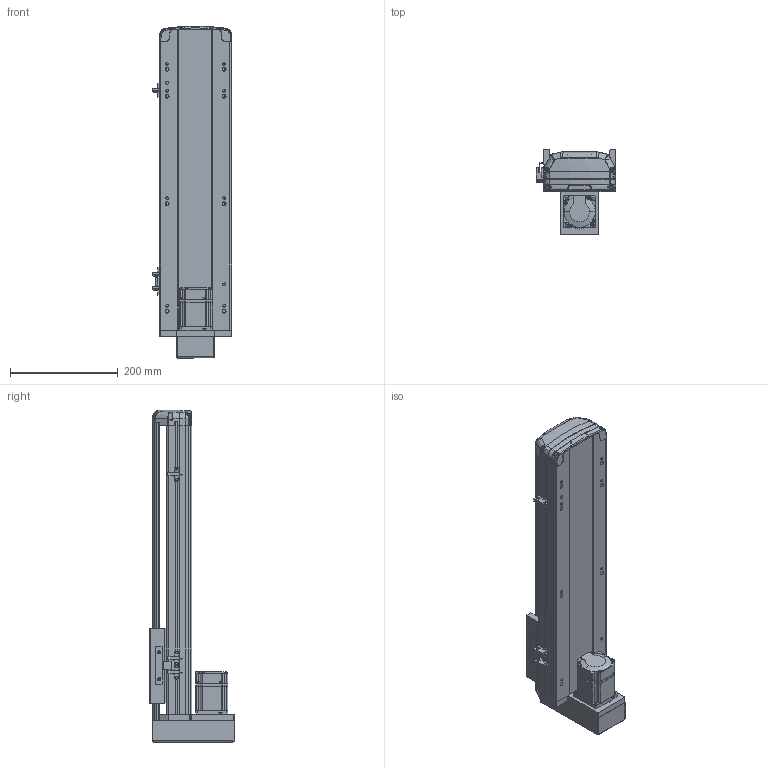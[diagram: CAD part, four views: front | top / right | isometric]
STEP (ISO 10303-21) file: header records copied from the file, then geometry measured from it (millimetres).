
FILE_DESCRIPTION (( 'STEP AP214' ), '1' );
FILE_NAME ('RTH14-XX-350-M-M20-C4.STEP', '2025-10-25T02:47:56', ( 'Microsoft' ), ( 'Microsoft' ), 'SwSTEP 2.0', 'SolidWorks 2018', '' );
FILE_SCHEMA (( 'AUTOMOTIVE_DESIGN' ));
Length unit declared in the file: millimetre
Products named in the file (10): N_RTH14-GY-001P^RTH14-XX-XX-M-M20-C4; N_RTH13-M-008萇儂啣狟殏^RTH14-XX-XX-M-M20-C4; N_MSMD022P1AA_200W^RTH14-XX-XX-M-M20-C4; N_RTH13-L-012感应片（外置）^RTH14-XX-XX-M-M20-C4; N_RTH14-R-004-SFSR16賑釱^RTH14-XX-XX-M-M20-C4; N_RTH13-M-018裔赽^RTH14-XX-XX-M-M20-C4; N_OMRON EE-SX672 传感器^RTH14-XX-XX-M-M20-C4; N_RTH14-M-011P菁釱^RTH14-XX-XX-M-M20-C4; RTH14-XX-350-M-M20-C4; N_RTH14-M-007P奻裔^RTH14-XX-XX-M-M20-C4
Assembly tree (11 placements, depth 2):
  RTH14-XX-350-M-M20-C4
    N_RTH14-M-011P菁釱^RTH14-XX-XX-M-M20-C4
    N_RTH14-M-007P奻裔^RTH14-XX-XX-M-M20-C4
    N_MSMD022P1AA_200W^RTH14-XX-XX-M-M20-C4
    N_RTH13-M-008萇儂啣狟殏^RTH14-XX-XX-M-M20-C4
    N_RTH13-M-018裔赽^RTH14-XX-XX-M-M20-C4
    N_RTH13-L-012感应片（外置）^RTH14-XX-XX-M-M20-C4
    N_OMRON EE-SX672 传感器^RTH14-XX-XX-M-M20-C4  x3
    N_RTH14-R-004-SFSR16賑釱^RTH14-XX-XX-M-M20-C4
    N_RTH14-GY-001P^RTH14-XX-XX-M-M20-C4
Bounding box: 148.5 x 156.5 x 617.49 mm (x, y, z)
Volume: 2978833.7 mm3; surface area: 697671.9 mm2
Topology: 11 solids, 11 shells, 1861 faces, 5198 edges, 3404 vertices
Faces by surface type: plane 993, cylinder 474, bspline 345, cone 45, torus 4
Entity records: 56664 total; most frequent: CARTESIAN_POINT 22905, ORIENTED_EDGE 7464, DIRECTION 5961, EDGE_CURVE 3732, VERTEX_POINT 2440, VECTOR 2159, LINE 2159, AXIS2_PLACEMENT_3D 1901
